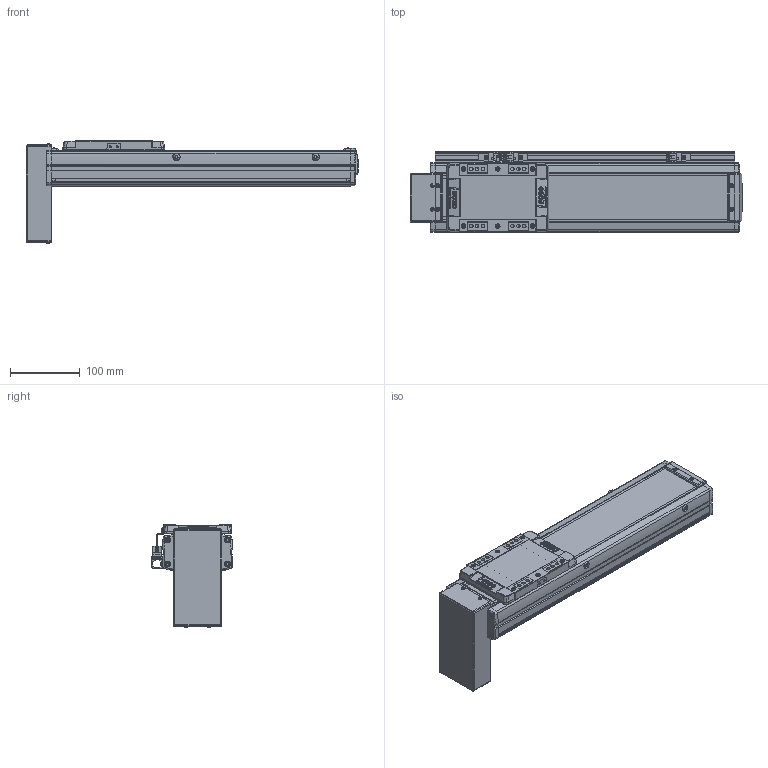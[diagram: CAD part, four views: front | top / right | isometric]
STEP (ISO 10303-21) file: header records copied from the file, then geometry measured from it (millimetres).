
FILE_DESCRIPTION(('STEP AP214'),'1');
FILE_NAME('Z:/Web/3D/SAN100/SAN100 양산용 (STEP)/SAN100ㅁㅁ-250PB+3SL.stp','2013-04-25T04:15:52',(' '),(' '),'Spatial InterOp 3D',' ',' ');
FILE_SCHEMA(('automotive_design'));
Length unit declared in the file: millimetre
Products named in the file (55): SGD-SAN100; M3.0 x 6.0; SRL-16x17-380L; EE-SX674; SBK-SX674-352; 스크루 : Round - M3.0 x 6.0; SUS COVER; SFX-SAN100; RRCV-SAN100; 스크루 : Round - M4.0 x 10.0; FRBL-SAN100; SLBL-SAN100; SLCV-SAN100; 스크루 : Countersunk - M3.0 x 6.0; BASE; 스크루 : Round - M5.0 x 6.0; BTCV-SAN100; FRCV-SAN100
Bounding box: 476.5 x 116 x 148.36 mm (x, y, z)
Volume: 1690065.7 mm3; surface area: 443207.2 mm2
Topology: 55 solids, 56 shells, 2475 faces, 6414 edges, 4159 vertices
Faces by surface type: plane 1358, cylinder 801, cone 202, sphere 72, torus 30, bspline 12
Entity records: 97150 total; most frequent: CARTESIAN_POINT 14153, DIRECTION 13575, ORIENTED_EDGE 12680, EDGE_CURVE 6340, AXIS2_PLACEMENT_3D 4802, VERTEX_POINT 4159, LINE 3971, VECTOR 3971
